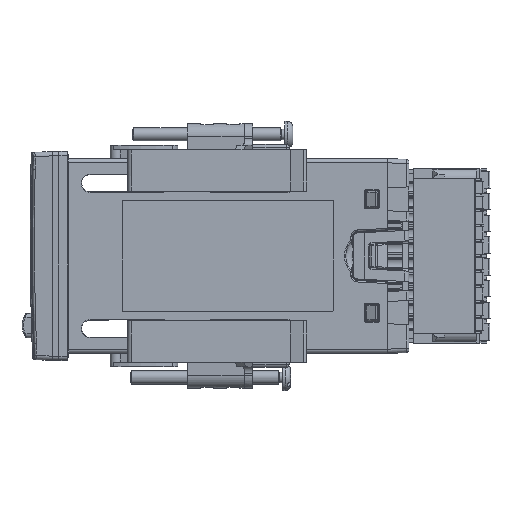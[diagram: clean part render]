
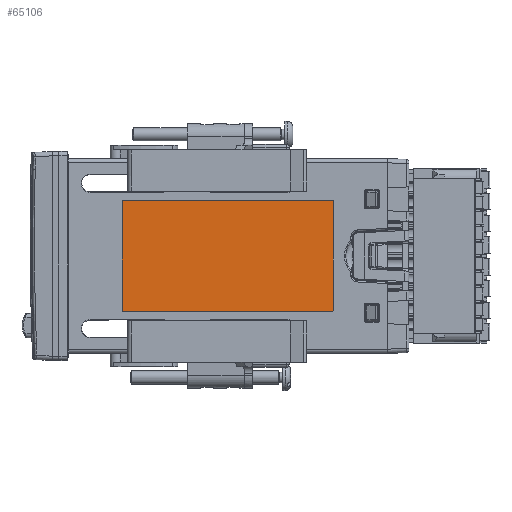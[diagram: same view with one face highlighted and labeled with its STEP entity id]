
A CAD part, left-side view. The second image highlights one B-rep face of the part: STEP entity #65106.
In plain terms, the highlighted planar face has unit normal (-1, 0, 0).
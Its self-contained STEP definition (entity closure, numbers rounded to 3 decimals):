
#7018=ELLIPSE('',#70163,0.3,0.3);
#7019=ELLIPSE('',#70165,0.3,0.3);
#7020=ELLIPSE('',#70166,0.3,0.3);
#7021=ELLIPSE('',#70167,0.3,0.3);
#8737=FACE_OUTER_BOUND('',#12615,.T.);
#12615=EDGE_LOOP('',(#48748,#48749,#48750,#48751,#48752,#48753,#48754,#48755));
#16905=LINE('',#111831,#22602);
#16908=LINE('',#111842,#22605);
#16909=LINE('',#111846,#22606);
#16910=LINE('',#111848,#22607);
#22602=VECTOR('',#80580,24.89);
#22605=VECTOR('',#80591,24.89);
#22606=VECTOR('',#80594,47.89);
#22607=VECTOR('',#80597,47.89);
#29076=VERTEX_POINT('',#111828);
#29077=VERTEX_POINT('',#111830);
#29078=VERTEX_POINT('',#111834);
#29079=VERTEX_POINT('',#111838);
#29080=VERTEX_POINT('',#111839);
#29081=VERTEX_POINT('',#111841);
#29082=VERTEX_POINT('',#111843);
#29083=VERTEX_POINT('',#111845);
#36244=EDGE_CURVE('',#29077,#29076,#16905,.T.);
#36246=EDGE_CURVE('',#29076,#29078,#7018,.T.);
#36248=EDGE_CURVE('',#29079,#29080,#7019,.T.);
#36249=EDGE_CURVE('',#29081,#29080,#16908,.T.);
#36250=EDGE_CURVE('',#29081,#29082,#7020,.T.);
#36251=EDGE_CURVE('',#29083,#29082,#16909,.T.);
#36252=EDGE_CURVE('',#29083,#29077,#7021,.T.);
#36253=EDGE_CURVE('',#29078,#29079,#16910,.T.);
#48748=ORIENTED_EDGE('',*,*,#36248,.T.);
#48749=ORIENTED_EDGE('',*,*,#36249,.F.);
#48750=ORIENTED_EDGE('',*,*,#36250,.T.);
#48751=ORIENTED_EDGE('',*,*,#36251,.F.);
#48752=ORIENTED_EDGE('',*,*,#36252,.T.);
#48753=ORIENTED_EDGE('',*,*,#36244,.T.);
#48754=ORIENTED_EDGE('',*,*,#36246,.T.);
#48755=ORIENTED_EDGE('',*,*,#36253,.T.);
#62643=PLANE('',#70164);
#65106=ADVANCED_FACE('',(#8737),#62643,.F.);
#70163=AXIS2_PLACEMENT_3D('',#111835,#80584,#80585);
#70164=AXIS2_PLACEMENT_3D('',#111837,#80587,#80588);
#70165=AXIS2_PLACEMENT_3D('',#111840,#80589,#80590);
#70166=AXIS2_PLACEMENT_3D('',#111844,#80592,#80593);
#70167=AXIS2_PLACEMENT_3D('',#111847,#80595,#80596);
#80580=DIRECTION('',(0.,0.,1.));
#80584=DIRECTION('center_axis',(-1.,0.,0.));
#80585=DIRECTION('ref_axis',(0.,-0.707,0.707));
#80587=DIRECTION('center_axis',(1.,0.,0.));
#80588=DIRECTION('ref_axis',(0.,1.,0.));
#80589=DIRECTION('center_axis',(-1.,0.,0.));
#80590=DIRECTION('ref_axis',(0.,0.707,0.707));
#80591=DIRECTION('',(0.,0.,1.));
#80592=DIRECTION('center_axis',(-1.,0.,0.));
#80593=DIRECTION('ref_axis',(0.,0.707,-0.707));
#80594=DIRECTION('',(0.,1.,0.));
#80595=DIRECTION('center_axis',(-1.,0.,0.));
#80596=DIRECTION('ref_axis',(0.,-0.707,-0.707));
#80597=DIRECTION('',(0.,1.,0.));
#111828=CARTESIAN_POINT('',(-22.2,-64.545,12.445));
#111830=CARTESIAN_POINT('',(-22.2,-64.545,-12.445));
#111831=CARTESIAN_POINT('',(-22.2,-64.545,-12.445));
#111834=CARTESIAN_POINT('',(-22.2,-64.245,12.745));
#111835=CARTESIAN_POINT('Origin',(-22.2,-64.245,12.445));
#111837=CARTESIAN_POINT('Origin',(-22.2,-64.55,-12.75));
#111838=CARTESIAN_POINT('',(-22.2,-16.355,12.745));
#111839=CARTESIAN_POINT('',(-22.2,-16.055,12.445));
#111840=CARTESIAN_POINT('Origin',(-22.2,-16.355,12.445));
#111841=CARTESIAN_POINT('',(-22.2,-16.055,-12.445));
#111842=CARTESIAN_POINT('',(-22.2,-16.055,-12.445));
#111843=CARTESIAN_POINT('',(-22.2,-16.355,-12.745));
#111844=CARTESIAN_POINT('Origin',(-22.2,-16.355,-12.445));
#111845=CARTESIAN_POINT('',(-22.2,-64.245,-12.745));
#111846=CARTESIAN_POINT('',(-22.2,-64.245,-12.745));
#111847=CARTESIAN_POINT('Origin',(-22.2,-64.245,-12.445));
#111848=CARTESIAN_POINT('',(-22.2,-64.245,12.745));
